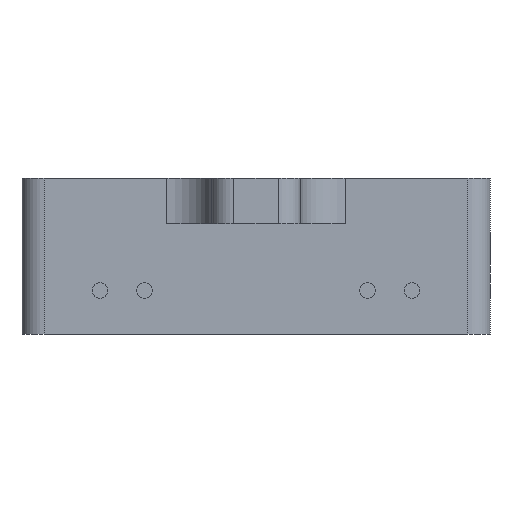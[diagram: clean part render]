
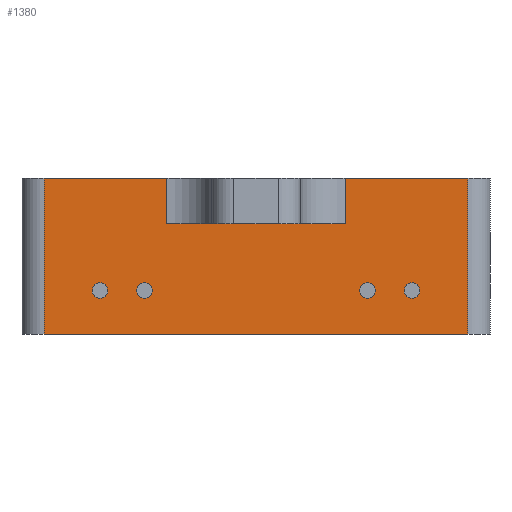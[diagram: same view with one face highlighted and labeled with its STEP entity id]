
A CAD part, front view. The second image highlights one B-rep face of the part: STEP entity #1380.
In plain terms, the highlighted planar face has unit normal (0, -1, 0).
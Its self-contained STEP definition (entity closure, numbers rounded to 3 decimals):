
#6 = VERTEX_POINT ( 'NONE', #115 ) ;
#20 = VERTEX_POINT ( 'NONE', #717 ) ;
#33 = CARTESIAN_POINT ( 'NONE',  ( -8.05, -4., -3. ) ) ;
#52 = EDGE_CURVE ( 'NONE', #629, #80, #344, .T. ) ;
#53 = CIRCLE ( 'NONE', #849, 0.35 ) ;
#65 = DIRECTION ( 'NONE',  ( 0., 0., -1. ) ) ;
#73 = CARTESIAN_POINT ( 'NONE',  ( -10.9, -4., -4.75 ) ) ;
#74 = CARTESIAN_POINT ( 'NONE',  ( 8.1, -4., 2.05 ) ) ;
#76 = AXIS2_PLACEMENT_3D ( 'NONE', #1327, #248, #1461 ) ;
#80 = VERTEX_POINT ( 'NONE', #33 ) ;
#92 = CARTESIAN_POINT ( 'NONE',  ( 5.6, -4., -3. ) ) ;
#99 = DIRECTION ( 'NONE',  ( 0., -1., 0. ) ) ;
#110 = EDGE_CURVE ( 'NONE', #80, #629, #53, .T. ) ;
#115 = CARTESIAN_POINT ( 'NONE',  ( 2.6, -4., 2.05 ) ) ;
#124 = DIRECTION ( 'NONE',  ( -1., 0., 0. ) ) ;
#158 = FACE_BOUND ( 'NONE', #1200, .T. ) ;
#173 = CIRCLE ( 'NONE', #577, 0.35 ) ;
#231 = ORIENTED_EDGE ( 'NONE', *, *, #808, .F. ) ;
#245 = CIRCLE ( 'NONE', #442, 0.35 ) ;
#248 = DIRECTION ( 'NONE',  ( 0., -1., 0. ) ) ;
#256 = ORIENTED_EDGE ( 'NONE', *, *, #263, .T. ) ;
#263 = EDGE_CURVE ( 'NONE', #319, #819, #417, .T. ) ;
#274 = EDGE_CURVE ( 'NONE', #593, #1543, #439, .T. ) ;
#288 = DIRECTION ( 'NONE',  ( 1., 0., 0. ) ) ;
#301 = CARTESIAN_POINT ( 'NONE',  ( 5.95, -4., -3. ) ) ;
#303 = DIRECTION ( 'NONE',  ( 0., 0., 1. ) ) ;
#304 = EDGE_CURVE ( 'NONE', #939, #766, #245, .T. ) ;
#311 = EDGE_CURVE ( 'NONE', #766, #939, #1401, .T. ) ;
#319 = VERTEX_POINT ( 'NONE', #898 ) ;
#334 = EDGE_CURVE ( 'NONE', #1313, #1202, #573, .T. ) ;
#335 = CARTESIAN_POINT ( 'NONE',  ( 3.6, -4., -3. ) ) ;
#339 = EDGE_LOOP ( 'NONE', ( #768, #513 ) ) ;
#344 = CIRCLE ( 'NONE', #76, 0.35 ) ;
#367 = CARTESIAN_POINT ( 'NONE',  ( 3.25, -4., -3. ) ) ;
#399 = LINE ( 'NONE', #992, #1382 ) ;
#405 = CARTESIAN_POINT ( 'NONE',  ( 12.5, -4., 2.05 ) ) ;
#417 = LINE ( 'NONE', #1381, #871 ) ;
#419 = CARTESIAN_POINT ( 'NONE',  ( 8.1, -4., -4.95 ) ) ;
#439 = LINE ( 'NONE', #74, #1084 ) ;
#442 = AXIS2_PLACEMENT_3D ( 'NONE', #92, #1513, #908 ) ;
#511 = CARTESIAN_POINT ( 'NONE',  ( -8.4, -4., -3. ) ) ;
#513 = ORIENTED_EDGE ( 'NONE', *, *, #110, .F. ) ;
#515 = ORIENTED_EDGE ( 'NONE', *, *, #1447, .F. ) ;
#523 = CIRCLE ( 'NONE', #1411, 0.35 ) ;
#536 = ORIENTED_EDGE ( 'NONE', *, *, #1424, .F. ) ;
#542 = AXIS2_PLACEMENT_3D ( 'NONE', #1267, #1055, #1022 ) ;
#558 = CARTESIAN_POINT ( 'NONE',  ( 5.25, -4., -3. ) ) ;
#573 = CIRCLE ( 'NONE', #1228, 0.35 ) ;
#577 = AXIS2_PLACEMENT_3D ( 'NONE', #1078, #1436, #124 ) ;
#588 = VERTEX_POINT ( 'NONE', #858 ) ;
#593 = VERTEX_POINT ( 'NONE', #874 ) ;
#598 = EDGE_LOOP ( 'NONE', ( #231, #1395 ) ) ;
#613 = ORIENTED_EDGE ( 'NONE', *, *, #1336, .T. ) ;
#614 = LINE ( 'NONE', #1433, #1160 ) ;
#629 = VERTEX_POINT ( 'NONE', #1117 ) ;
#635 = FACE_BOUND ( 'NONE', #1033, .T. ) ;
#640 = FACE_BOUND ( 'NONE', #339, .T. ) ;
#652 = DIRECTION ( 'NONE',  ( -1., 0., 0. ) ) ;
#667 = DIRECTION ( 'NONE',  ( 0., -1., 0. ) ) ;
#668 = CARTESIAN_POINT ( 'NONE',  ( 3.6, -4., -3. ) ) ;
#682 = EDGE_CURVE ( 'NONE', #588, #1269, #795, .T. ) ;
#717 = CARTESIAN_POINT ( 'NONE',  ( -6.75, -4., -3. ) ) ;
#749 = ORIENTED_EDGE ( 'NONE', *, *, #1221, .F. ) ;
#766 = VERTEX_POINT ( 'NONE', #301 ) ;
#767 = DIRECTION ( 'NONE',  ( 0., 1., 0. ) ) ;
#768 = ORIENTED_EDGE ( 'NONE', *, *, #52, .F. ) ;
#778 = CARTESIAN_POINT ( 'NONE',  ( -10.9, -4., -4.95 ) ) ;
#791 = DIRECTION ( 'NONE',  ( -1., 0., 0. ) ) ;
#795 = LINE ( 'NONE', #73, #1157 ) ;
#808 = EDGE_CURVE ( 'NONE', #20, #1244, #173, .T. ) ;
#811 = CARTESIAN_POINT ( 'NONE',  ( 12.5, -4., 2.05 ) ) ;
#819 = VERTEX_POINT ( 'NONE', #820 ) ;
#820 = CARTESIAN_POINT ( 'NONE',  ( -5.4, -4., 2.05 ) ) ;
#849 = AXIS2_PLACEMENT_3D ( 'NONE', #511, #1372, #1014 ) ;
#858 = CARTESIAN_POINT ( 'NONE',  ( -10.9, -4., 2.05 ) ) ;
#863 = ORIENTED_EDGE ( 'NONE', *, *, #930, .F. ) ;
#869 = LINE ( 'NONE', #881, #1035 ) ;
#871 = VECTOR ( 'NONE', #303, 1000. ) ;
#874 = CARTESIAN_POINT ( 'NONE',  ( 8.1, -4., -4.95 ) ) ;
#881 = CARTESIAN_POINT ( 'NONE',  ( 9.1, -4., 0. ) ) ;
#898 = CARTESIAN_POINT ( 'NONE',  ( -5.4, -4., 0. ) ) ;
#899 = AXIS2_PLACEMENT_3D ( 'NONE', #1024, #667, #1498 ) ;
#900 = ORIENTED_EDGE ( 'NONE', *, *, #1352, .T. ) ;
#908 = DIRECTION ( 'NONE',  ( -1., 0., 0. ) ) ;
#927 = LINE ( 'NONE', #419, #1456 ) ;
#930 = EDGE_CURVE ( 'NONE', #593, #1269, #927, .T. ) ;
#939 = VERTEX_POINT ( 'NONE', #558 ) ;
#945 = CARTESIAN_POINT ( 'NONE',  ( 8.1, -4., 2.05 ) ) ;
#952 = ORIENTED_EDGE ( 'NONE', *, *, #311, .F. ) ;
#959 = ORIENTED_EDGE ( 'NONE', *, *, #274, .T. ) ;
#992 = CARTESIAN_POINT ( 'NONE',  ( 2.6, -4., 2.05 ) ) ;
#997 = EDGE_CURVE ( 'NONE', #1244, #20, #1355, .T. ) ;
#1014 = DIRECTION ( 'NONE',  ( -1., 0., 0. ) ) ;
#1022 = DIRECTION ( 'NONE',  ( -1., 0., 0. ) ) ;
#1024 = CARTESIAN_POINT ( 'NONE',  ( -6.4, -4., -3. ) ) ;
#1033 = EDGE_LOOP ( 'NONE', ( #515, #1216 ) ) ;
#1035 = VECTOR ( 'NONE', #1353, 1000. ) ;
#1038 = LINE ( 'NONE', #811, #1260 ) ;
#1047 = DIRECTION ( 'NONE',  ( 0., 0., -1. ) ) ;
#1051 = DIRECTION ( 'NONE',  ( 1., 0., 0. ) ) ;
#1055 = DIRECTION ( 'NONE',  ( 0., -1., 0. ) ) ;
#1078 = CARTESIAN_POINT ( 'NONE',  ( -6.4, -4., -3. ) ) ;
#1084 = VECTOR ( 'NONE', #1173, 1000. ) ;
#1117 = CARTESIAN_POINT ( 'NONE',  ( -8.75, -4., -3. ) ) ;
#1121 = FACE_BOUND ( 'NONE', #598, .T. ) ;
#1129 = FACE_OUTER_BOUND ( 'NONE', #1458, .T. ) ;
#1138 = CARTESIAN_POINT ( 'NONE',  ( 3.95, -4., -3. ) ) ;
#1157 = VECTOR ( 'NONE', #1047, 1000. ) ;
#1160 = VECTOR ( 'NONE', #288, 1000. ) ;
#1168 = ORIENTED_EDGE ( 'NONE', *, *, #682, .T. ) ;
#1173 = DIRECTION ( 'NONE',  ( 0., 0., 1. ) ) ;
#1200 = EDGE_LOOP ( 'NONE', ( #1476, #952 ) ) ;
#1202 = VERTEX_POINT ( 'NONE', #367 ) ;
#1212 = AXIS2_PLACEMENT_3D ( 'NONE', #405, #767, #652 ) ;
#1216 = ORIENTED_EDGE ( 'NONE', *, *, #334, .F. ) ;
#1221 = EDGE_CURVE ( 'NONE', #588, #819, #614, .T. ) ;
#1228 = AXIS2_PLACEMENT_3D ( 'NONE', #335, #99, #1397 ) ;
#1238 = CARTESIAN_POINT ( 'NONE',  ( -6.05, -4., -3. ) ) ;
#1244 = VERTEX_POINT ( 'NONE', #1238 ) ;
#1260 = VECTOR ( 'NONE', #1051, 1000. ) ;
#1267 = CARTESIAN_POINT ( 'NONE',  ( 5.6, -4., -3. ) ) ;
#1269 = VERTEX_POINT ( 'NONE', #778 ) ;
#1294 = DIRECTION ( 'NONE',  ( -1., 0., 0. ) ) ;
#1313 = VERTEX_POINT ( 'NONE', #1138 ) ;
#1327 = CARTESIAN_POINT ( 'NONE',  ( -8.4, -4., -3. ) ) ;
#1336 = EDGE_CURVE ( 'NONE', #6, #1429, #399, .T. ) ;
#1352 = EDGE_CURVE ( 'NONE', #1429, #319, #869, .T. ) ;
#1353 = DIRECTION ( 'NONE',  ( -1., 0., 0. ) ) ;
#1355 = CIRCLE ( 'NONE', #899, 0.35 ) ;
#1372 = DIRECTION ( 'NONE',  ( 0., -1., 0. ) ) ;
#1380 = ADVANCED_FACE ( 'NONE', ( #158, #635, #1121, #640, #1129 ), #1484, .F. ) ;
#1381 = CARTESIAN_POINT ( 'NONE',  ( -5.4, -4., 2.05 ) ) ;
#1382 = VECTOR ( 'NONE', #65, 1000. ) ;
#1395 = ORIENTED_EDGE ( 'NONE', *, *, #997, .F. ) ;
#1397 = DIRECTION ( 'NONE',  ( -1., 0., 0. ) ) ;
#1401 = CIRCLE ( 'NONE', #542, 0.35 ) ;
#1411 = AXIS2_PLACEMENT_3D ( 'NONE', #668, #1518, #1294 ) ;
#1424 = EDGE_CURVE ( 'NONE', #6, #1543, #1038, .T. ) ;
#1429 = VERTEX_POINT ( 'NONE', #1525 ) ;
#1433 = CARTESIAN_POINT ( 'NONE',  ( 12.5, -4., 2.05 ) ) ;
#1436 = DIRECTION ( 'NONE',  ( 0., -1., 0. ) ) ;
#1447 = EDGE_CURVE ( 'NONE', #1202, #1313, #523, .T. ) ;
#1456 = VECTOR ( 'NONE', #791, 1000. ) ;
#1458 = EDGE_LOOP ( 'NONE', ( #900, #256, #749, #1168, #863, #959, #536, #613 ) ) ;
#1461 = DIRECTION ( 'NONE',  ( -1., 0., 0. ) ) ;
#1476 = ORIENTED_EDGE ( 'NONE', *, *, #304, .F. ) ;
#1484 = PLANE ( 'NONE',  #1212 ) ;
#1498 = DIRECTION ( 'NONE',  ( -1., 0., 0. ) ) ;
#1513 = DIRECTION ( 'NONE',  ( 0., -1., 0. ) ) ;
#1518 = DIRECTION ( 'NONE',  ( 0., -1., 0. ) ) ;
#1525 = CARTESIAN_POINT ( 'NONE',  ( 2.6, -4., 0. ) ) ;
#1543 = VERTEX_POINT ( 'NONE', #945 ) ;
